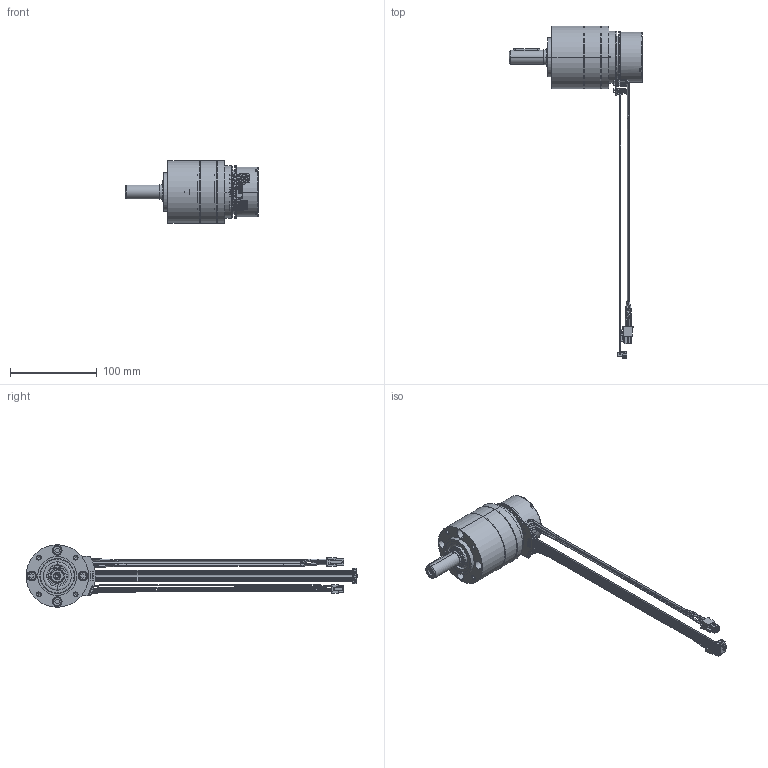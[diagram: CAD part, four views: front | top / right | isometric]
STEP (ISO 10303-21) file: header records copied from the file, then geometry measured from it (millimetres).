
FILE_DESCRIPTION (( 'STEP AP214' ), '1' );
FILE_NAME ('EC60Flat_PM72_1st.STEP', '2020-06-22T10:01:08', ( '' ), ( '' ), 'SwSTEP 2.0', 'SolidWorks 2019', '' );
FILE_SCHEMA (( 'AUTOMOTIVE_DESIGN' ));
Length unit declared in the file: millimetre
Products named in the file (4): EC60Flat_PM72_1st; PM72-1etage; 6873599_adapt_ec60_pm72_Part; EC60fl. 150W cable open + MILE
Assembly tree (3 placements, depth 2):
  EC60Flat_PM72_1st
    EC60fl. 150W cable open + MILE
    PM72-1etage
    6873599_adapt_ec60_pm72_Part
Bounding box: 153.8 x 382.24 x 72 mm (x, y, z)
Volume: 40823.4 mm3; surface area: 154413.8 mm2
Topology: 1 solids, 64 shells, 2617 faces, 6801 edges, 4373 vertices
Faces by surface type: plane 1460, cylinder 865, torus 209, cone 83
Entity records: 112566 total; most frequent: CARTESIAN_POINT 17885, DIRECTION 13844, ORIENTED_EDGE 13514, EDGE_CURVE 6783, AXIS2_PLACEMENT_3D 4653, VECTOR 4538, LINE 4538, VERTEX_POINT 4373
